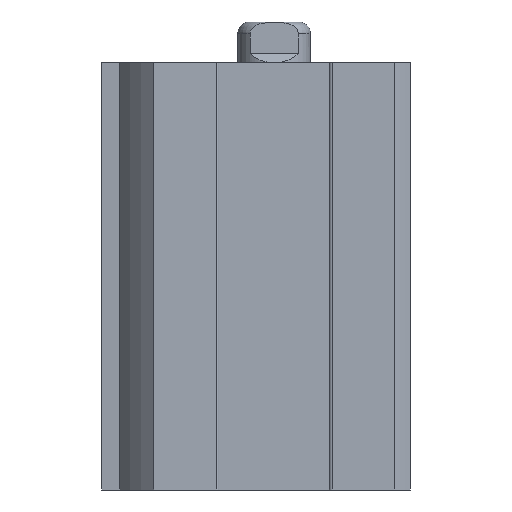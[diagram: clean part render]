
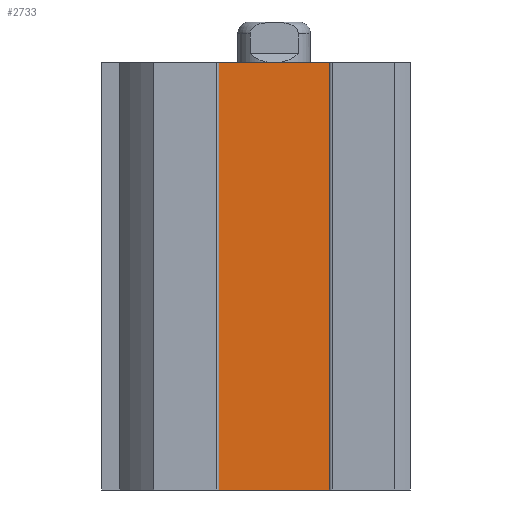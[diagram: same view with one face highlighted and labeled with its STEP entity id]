
A CAD part, left-side view. The second image highlights one B-rep face of the part: STEP entity #2733.
In plain terms, the highlighted planar face has unit normal (-1, 0, 0).
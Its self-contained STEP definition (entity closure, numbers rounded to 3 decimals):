
#85=LINE('',#5362,#251);
#86=LINE('',#5364,#252);
#87=LINE('',#5366,#253);
#88=LINE('',#5368,#254);
#251=VECTOR('',#4458,1000.);
#252=VECTOR('',#4461,1000.);
#253=VECTOR('',#4462,1000.);
#254=VECTOR('',#4463,1000.);
#583=ORIENTED_EDGE('',*,*,#1313,.T.);
#584=ORIENTED_EDGE('',*,*,#1312,.F.);
#585=ORIENTED_EDGE('',*,*,#1314,.T.);
#586=ORIENTED_EDGE('',*,*,#1315,.T.);
#1312=EDGE_CURVE('',#1678,#1677,#85,.T.);
#1313=EDGE_CURVE('',#1679,#1677,#86,.T.);
#1314=EDGE_CURVE('',#1678,#1680,#87,.T.);
#1315=EDGE_CURVE('',#1680,#1679,#88,.T.);
#1677=VERTEX_POINT('',#5359);
#1678=VERTEX_POINT('',#5361);
#1679=VERTEX_POINT('',#5365);
#1680=VERTEX_POINT('',#5367);
#2136=EDGE_LOOP('',(#583,#584,#585,#586));
#2400=FACE_BOUND('',#2136,.T.);
#2645=PLANE('',#4008);
#2733=ADVANCED_FACE('',(#2400),#2645,.T.);
#4008=AXIS2_PLACEMENT_3D('',#5363,#4459,#4460);
#4458=DIRECTION('',(0.,0.,1.));
#4459=DIRECTION('',(-1.,0.,0.));
#4460=DIRECTION('',(0.,0.,1.));
#4461=DIRECTION('',(0.,1.,0.));
#4462=DIRECTION('',(0.,-1.,0.));
#4463=DIRECTION('',(0.,0.,1.));
#5359=CARTESIAN_POINT('',(-10.,6.124,42.));
#5361=CARTESIAN_POINT('',(-10.,6.124,-5.));
#5362=CARTESIAN_POINT('',(-10.,6.124,0.));
#5363=CARTESIAN_POINT('',(-10.,-6.124,0.));
#5364=CARTESIAN_POINT('',(-10.,-6.124,42.));
#5365=CARTESIAN_POINT('',(-10.,-6.124,42.));
#5366=CARTESIAN_POINT('',(-10.,6.124,-5.));
#5367=CARTESIAN_POINT('',(-10.,-6.124,-5.));
#5368=CARTESIAN_POINT('',(-10.,-6.124,0.));
